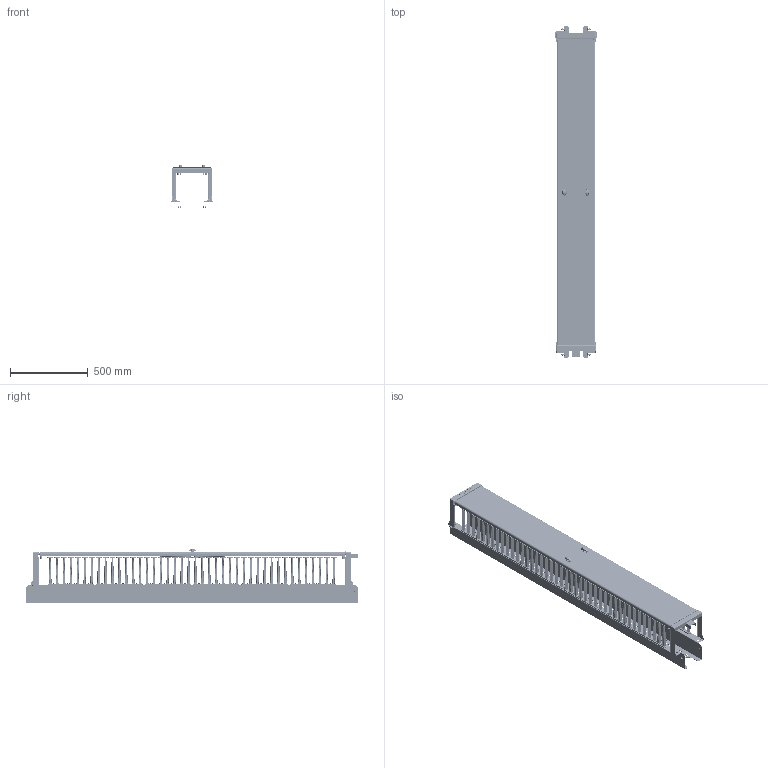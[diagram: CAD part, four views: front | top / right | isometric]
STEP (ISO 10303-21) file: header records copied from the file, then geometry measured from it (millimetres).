
FILE_DESCRIPTION(/* description */ ('VERTICAL CABLE MANAGER 45U x 10"W x 12"D, RECESSED, TOP LEVEL ASSEMBLY'),/* implementation_level */ '2;1');
FILE_NAME(/* name */ 'C:\GL-Vault\Inventor\side GLCC projects\Website\VCMX\VCMX-45U-1012FO-X.stp',/* time_stamp */ '2020-11-09T16:11:10-05:00',/* author */ ('CAIUSD'),/* organization */ (''),/* preprocessor_version */ 'ST-DEVELOPER v17',/* originating_system */ 'Autodesk Inventor 2018',/* authorisation */ '');
FILE_SCHEMA (('AUTOMOTIVE_DESIGN { 1 0 10303 214 3 1 1 }'));
Products named in the file (39): VCMX45U1012FOX200; VCMX45U1012FOX100; I032016; I032018; I032017; H29-084; RS26095; I032019; I032020; I032021; I032023; I032022; 1000-u429-01_asm; 1000-92-02; DIN3771_16X2_5; 1000-343-02; 1000-02; 1000-23; 1000-277-03; 200-9599; I032024; I032024_1; I032024_2; 1000U49; 1000U49HOUSING; 90401A535; 5269T29; WHGLCC; I032026; I032027; H04-002; H03-008; H02-014; I032687; H01-078; VC-156-6; CM77X100; H01-002; H18-003GL
Assembly tree (130 placements, depth 6):
  VCMX45U1012FOX200
    VCMX45U1012FOX100
      I032016
        I032018
        I032017  x2
      H29-084  x2
      RS26095  x4
      H01-078  x6
      I032019
        I032020
          I032021
          I032023  x2
          I032022
        1000-u429-01_asm  x2
          1000-92-02
          DIN3771_16X2_5
          1000-343-02
          1000-02
          1000-23
          1000-277-03
        200-9599  x2
        I032024_1  x2
          I032024_2
          1000U49
            1000U49HOUSING
            90401A535
        I032024  x2
          I032024_2
          1000U49
            1000U49HOUSING
            90401A535
        5269T29  x4
        WHGLCC  x4
      I032026  x2
      I032027
      H04-002  x4
      H03-008  x4
      H02-014  x4
      I032687
      VC-156-6  x2
    CM77X100  x12
    H01-002  x48
    H18-003GL
Bounding box: 269.24 x 2133.6 x 346.39 mm (x, y, z)
Volume: 5497496.3 mm3; surface area: 5502119.6 mm2
Topology: 132 solids, 132 shells, 19361 faces, 45114 edges, 26214 vertices
Faces by surface type: bspline 6524, cylinder 6382, plane 5217, sphere 522, torus 368, cone 348
Full cylindrical faces by diameter (mm): 3.251 x12, 3.962 x2, 4.343 x100, 4.632 x44, 4.762 x4, 4.801 x12, 4.826 x54, 5.2 x2, 5.5 x2, 5.563 x2, 5.994 x4, 6.096 x2, 6.35 x48, 6.502 x4, 7.938 x12, 8.001 x4, 8.23 x2, 8.382 x2, 9.525 x18, 10.16 x4, 10.319 x4, 11.112 x4, 11.8 x2, 12.7 x12, 12.751 x2, 12.954 x4, 13.5 x2, 14.287 x4, 14.684 x4, 14.8 x2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
Entity records: 148885 total; most frequent: CARTESIAN_POINT 63878, ORIENTED_EDGE 17750, DIRECTION 16761, EDGE_CURVE 8875, AXIS2_PLACEMENT_3D 5901, VERTEX_POINT 5527, LINE 4959, VECTOR 4959
